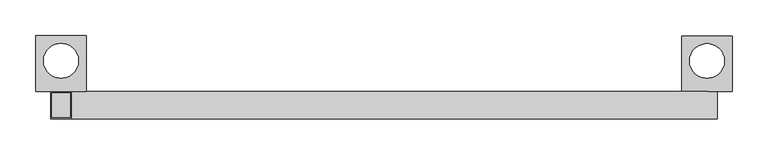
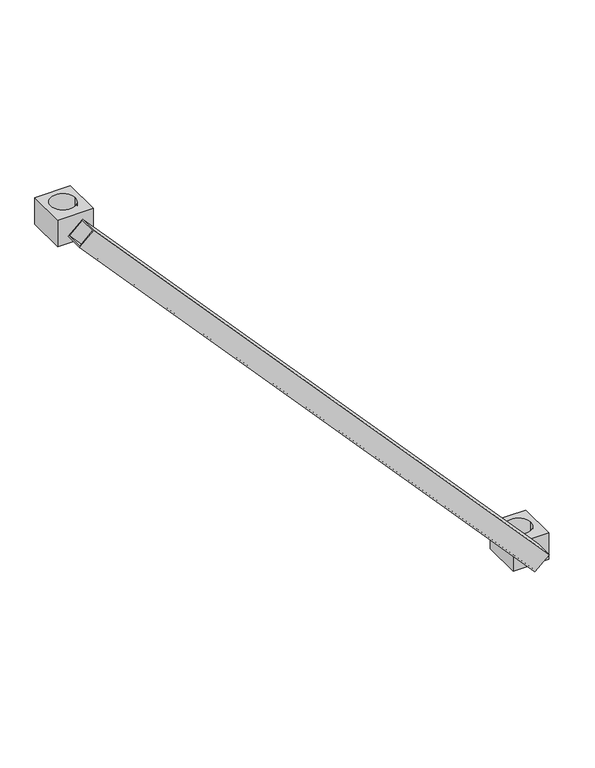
"""IFC4 building model written with IfcOpenShell, lengths in millimetres: proxy geometry, AK_アルバトロスAK伸縮斜材 : H1350×L0900."""

from ifc_helpers import new_model, si_unit, point, frame, frame_2d, origin, place, context, project, spatial, polyline, circle_curve, trimmed, segment, composite_curve, outline, extrude, source, transform, mapped, element, save


def generic_models_ef642bdb(model_context):
    return source(origin(), model_context, "Body", "SweptSolid", [
        extrude(outline(polyline([(0.0, 0.0), (0.0, -38.0), (-37.9999999, -38.0), (-37.9999999, 0.0), (0.0, 0.0)]), holes=[polyline([(-2.0, -2.0), (-36.0, -2.0), (-36.0, -36.0), (-2.0, -36.0), (-2.0, -2.0)])]), frame((14.0766447, 19.0, 12.761194), z_axis=(-0.6716417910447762, 0.0, 0.7408760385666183), x_axis=(0.7408760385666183, 0.0, 0.6716417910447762)), (0.0, 0.0, 1.0), 1340.0),
        extrude(outline(polyline([(35.0, 96.8842695), (35.0, 19.0), (-35.0, 19.0), (-35.0, 96.8842695), (35.0, 96.8842695)]), holes=[composite_curve([segment(trimmed(circle_curve(frame_2d((0.0, 61.8842695)), 24.3), [point((24.3, 61.8842695))], [point((-24.3, 61.8842695))], True, "CARTESIAN"), True, "CONTINUOUS"), segment(trimmed(circle_curve(frame_2d((0.0, 61.8842695)), 24.3), [point((-24.3, 61.8842695))], [point((24.3, 61.8842695))], True, "CARTESIAN"), True, "CONTINUOUS")], self_intersect=False)]), frame((0.0, 0.0, -27.7559086), z_axis=(0.0, 0.0, 1.0), x_axis=(1.0, 0.0, 0.0)), (0.0, 0.0, 1.0), 55.5118171),
        extrude(outline(polyline([(-865.0, 19.0), (-935.0, 19.0), (-935.0, 96.8842695), (-865.0, 96.8842695), (-865.0, 19.0)]), holes=[composite_curve([segment(trimmed(circle_curve(frame_2d((-900.0, 61.8842695)), 24.3), [point((-875.7, 61.8842695))], [point((-924.3, 61.8842695))], True, "CARTESIAN"), True, "CONTINUOUS"), segment(trimmed(circle_curve(frame_2d((-900.0, 61.8842695)), 24.3), [point((-924.3, 61.8842695))], [point((-875.7, 61.8842695))], True, "CARTESIAN"), True, "CONTINUOUS")], self_intersect=False)]), frame((0.0, 0.0, 965.0179831), z_axis=(0.0, 0.0, 1.0), x_axis=(1.0, 0.0, 0.0)), (0.0, 0.0, 1.0), 55.5118171),
    ])


if __name__ == "__main__":
    model = new_model("IFC4")
    model_context = context("Model", 3, world=origin())
    ifc_project = project(units=[si_unit("LENGTHUNIT", "METRE", prefix="MILLI")], contexts=[model_context])
    site = spatial("IfcSite", under=ifc_project)
    building = spatial("IfcBuilding", under=site)
    placement = place(None, origin())
    generic_models_shape = generic_models_ef642bdb(model_context)
    element("IfcBuildingElementProxy", 1, Name="AK_アルバトロスAK伸縮斜材 : H1350×L0900", ObjectType="AK_アルバトロスAK伸縮斜材 : H1350×L0900", at=placement, inside=building, context=model_context, shape_type="MappedRepresentation", body=[
        mapped(generic_models_shape, transform((0.0, 0.0, 0.0), x_axis=(1.0, 0.0, 0.0), y_axis=(0.0, 1.0, 0.0), z_axis=(0.0, 0.0, 1.0))),
    ])
    save(model, "model.ifc")
